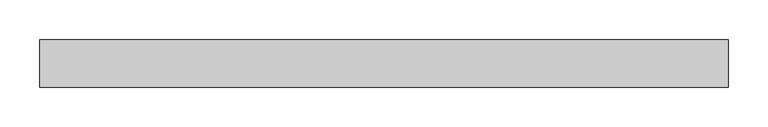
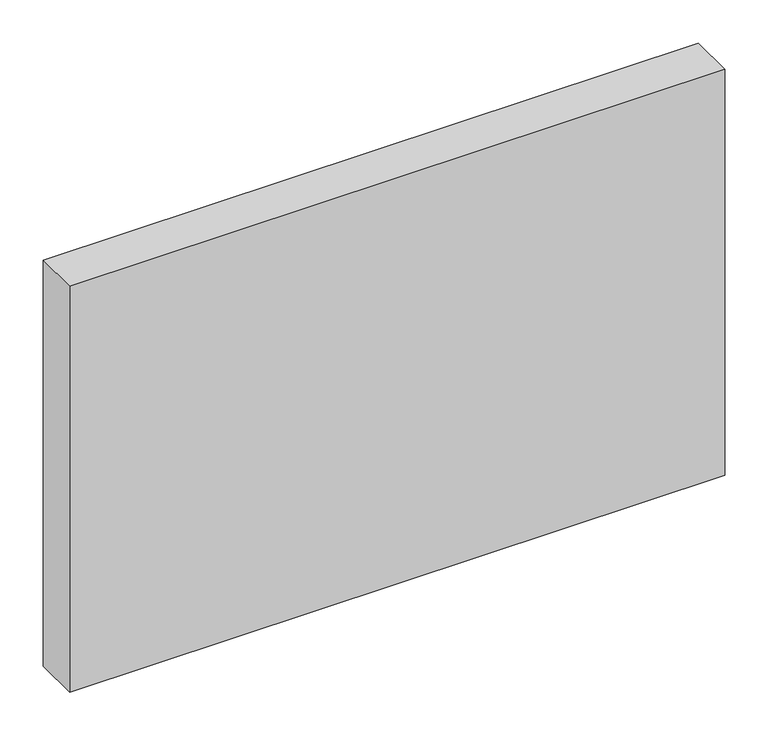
"""IFC4 building model written with IfcOpenShell, lengths in millimetres: plate geometry, Системная панель : Алюкобонд серый."""

from ifc_helpers import new_model, si_unit, origin, origin_with_axes, place, context, project, spatial, polyline, outline, extrude, source, transform, mapped, element, save


def plate_6a8750da(model_context):
    return source(origin(), model_context, "Body", "SweptSolid", [
        extrude(outline(polyline([(435.0, -10.5), (-435.0, -10.5), (-435.0, 49.5), (435.0, 49.5), (435.0, -10.5)])), origin_with_axes(), (0.0, 0.0, 1.0), 570.0),
    ])


if __name__ == "__main__":
    model = new_model("IFC4")
    model_context = context("Model", 3, world=origin())
    ifc_project = project(units=[si_unit("LENGTHUNIT", "METRE", prefix="MILLI")], contexts=[model_context])
    site = spatial("IfcSite", under=ifc_project)
    building = spatial("IfcBuilding", under=site)
    placement = place(None, origin())
    plate_shape = plate_6a8750da(model_context)
    element("IfcPlate", 1, ObjectType="Системная панель : Алюкобонд серый", at=placement, inside=building, context=model_context, shape_type="MappedRepresentation", body=[
        mapped(plate_shape, transform((0.0, 0.0, 0.0), x_axis=(1.0, 0.0, 0.0), y_axis=(0.0, 1.0, 0.0), z_axis=(0.0, 0.0, 1.0))),
    ])
    save(model, "model.ifc")
